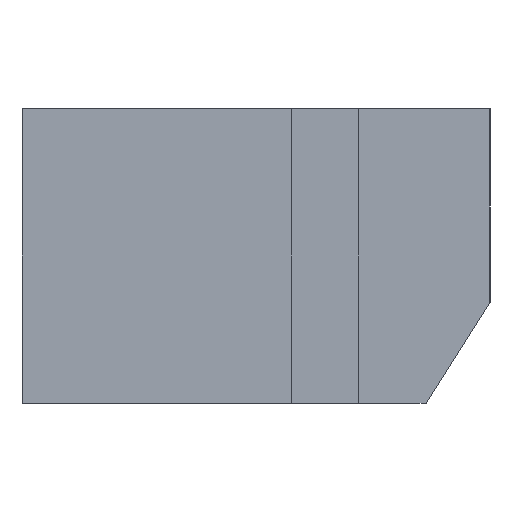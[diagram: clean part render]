
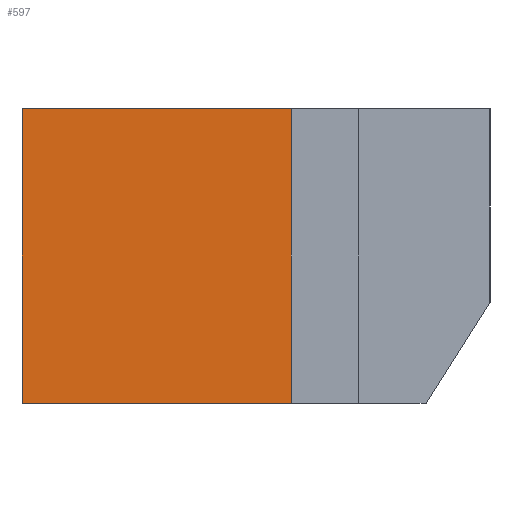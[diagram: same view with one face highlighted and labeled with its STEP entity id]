
A CAD part, left-side view. The second image highlights one B-rep face of the part: STEP entity #597.
In plain terms, the highlighted planar face has unit normal (-1, 0, 0).
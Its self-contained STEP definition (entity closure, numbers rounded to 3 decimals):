
#32 = PLANE('',#33);
#33 = AXIS2_PLACEMENT_3D('',#34,#35,#36);
#34 = CARTESIAN_POINT('',(-13.,3.,2.4));
#35 = DIRECTION('',(0.,0.,-1.));
#36 = DIRECTION('',(0.,-1.,0.));
#393 = VERTEX_POINT('',#394);
#394 = CARTESIAN_POINT('',(-14.4,2.6,2.4));
#408 = PLANE('',#409);
#409 = AXIS2_PLACEMENT_3D('',#410,#411,#412);
#410 = CARTESIAN_POINT('',(-14.4,2.6,2.4));
#411 = DIRECTION('',(0.,1.,0.));
#412 = DIRECTION('',(0.,0.,1.));
#420 = EDGE_CURVE('',#393,#421,#423,.T.);
#421 = VERTEX_POINT('',#422);
#422 = CARTESIAN_POINT('',(-14.4,4.2,2.4));
#423 = SURFACE_CURVE('',#424,(#428,#435),.PCURVE_S1.);
#424 = LINE('',#425,#426);
#425 = CARTESIAN_POINT('',(-14.4,2.6,2.4));
#426 = VECTOR('',#427,1.);
#427 = DIRECTION('',(0.,1.,0.));
#428 = PCURVE('',#32,#429);
#429 = DEFINITIONAL_REPRESENTATION('',(#430),#434);
#430 = LINE('',#431,#432);
#431 = CARTESIAN_POINT('',(0.4,1.4));
#432 = VECTOR('',#433,1.);
#433 = DIRECTION('',(-1.,-0.));
#434 = ( GEOMETRIC_REPRESENTATION_CONTEXT(2) 
PARAMETRIC_REPRESENTATION_CONTEXT() REPRESENTATION_CONTEXT('2D SPACE',''
  ) );
#435 = PCURVE('',#436,#441);
#436 = PLANE('',#437);
#437 = AXIS2_PLACEMENT_3D('',#438,#439,#440);
#438 = CARTESIAN_POINT('',(-14.4,2.6,2.4));
#439 = DIRECTION('',(1.,0.,0.));
#440 = DIRECTION('',(0.,0.,1.));
#441 = DEFINITIONAL_REPRESENTATION('',(#442),#446);
#442 = LINE('',#443,#444);
#443 = CARTESIAN_POINT('',(0.,0.));
#444 = VECTOR('',#445,1.);
#445 = DIRECTION('',(0.,-1.));
#446 = ( GEOMETRIC_REPRESENTATION_CONTEXT(2) 
PARAMETRIC_REPRESENTATION_CONTEXT() REPRESENTATION_CONTEXT('2D SPACE',''
  ) );
#462 = PLANE('',#463);
#463 = AXIS2_PLACEMENT_3D('',#464,#465,#466);
#464 = CARTESIAN_POINT('',(-14.4,4.2,2.4));
#465 = DIRECTION('',(0.,1.,0.));
#466 = DIRECTION('',(0.,0.,1.));
#495 = PLANE('',#496);
#496 = AXIS2_PLACEMENT_3D('',#497,#498,#499);
#497 = CARTESIAN_POINT('',(-13.,1.42,4.15));
#498 = DIRECTION('',(0.,0.,1.));
#499 = DIRECTION('',(0.,1.,0.));
#553 = EDGE_CURVE('',#421,#554,#556,.T.);
#554 = VERTEX_POINT('',#555);
#555 = CARTESIAN_POINT('',(-14.4,4.2,4.15));
#556 = SURFACE_CURVE('',#557,(#561,#568),.PCURVE_S1.);
#557 = LINE('',#558,#559);
#558 = CARTESIAN_POINT('',(-14.4,4.2,2.4));
#559 = VECTOR('',#560,1.);
#560 = DIRECTION('',(0.,0.,1.));
#561 = PCURVE('',#462,#562);
#562 = DEFINITIONAL_REPRESENTATION('',(#563),#567);
#563 = LINE('',#564,#565);
#564 = CARTESIAN_POINT('',(0.,0.));
#565 = VECTOR('',#566,1.);
#566 = DIRECTION('',(1.,0.));
#567 = ( GEOMETRIC_REPRESENTATION_CONTEXT(2) 
PARAMETRIC_REPRESENTATION_CONTEXT() REPRESENTATION_CONTEXT('2D SPACE',''
  ) );
#568 = PCURVE('',#436,#569);
#569 = DEFINITIONAL_REPRESENTATION('',(#570),#574);
#570 = LINE('',#571,#572);
#571 = CARTESIAN_POINT('',(0.,-1.6));
#572 = VECTOR('',#573,1.);
#573 = DIRECTION('',(1.,0.));
#574 = ( GEOMETRIC_REPRESENTATION_CONTEXT(2) 
PARAMETRIC_REPRESENTATION_CONTEXT() REPRESENTATION_CONTEXT('2D SPACE',''
  ) );
#597 = ADVANCED_FACE('',(#598),#436,.F.);
#598 = FACE_BOUND('',#599,.F.);
#599 = EDGE_LOOP('',(#600,#623,#624,#625));
#600 = ORIENTED_EDGE('',*,*,#601,.F.);
#601 = EDGE_CURVE('',#393,#602,#604,.T.);
#602 = VERTEX_POINT('',#603);
#603 = CARTESIAN_POINT('',(-14.4,2.6,4.15));
#604 = SURFACE_CURVE('',#605,(#609,#616),.PCURVE_S1.);
#605 = LINE('',#606,#607);
#606 = CARTESIAN_POINT('',(-14.4,2.6,2.4));
#607 = VECTOR('',#608,1.);
#608 = DIRECTION('',(0.,0.,1.));
#609 = PCURVE('',#436,#610);
#610 = DEFINITIONAL_REPRESENTATION('',(#611),#615);
#611 = LINE('',#612,#613);
#612 = CARTESIAN_POINT('',(0.,0.));
#613 = VECTOR('',#614,1.);
#614 = DIRECTION('',(1.,0.));
#615 = ( GEOMETRIC_REPRESENTATION_CONTEXT(2) 
PARAMETRIC_REPRESENTATION_CONTEXT() REPRESENTATION_CONTEXT('2D SPACE',''
  ) );
#616 = PCURVE('',#408,#617);
#617 = DEFINITIONAL_REPRESENTATION('',(#618),#622);
#618 = LINE('',#619,#620);
#619 = CARTESIAN_POINT('',(0.,0.));
#620 = VECTOR('',#621,1.);
#621 = DIRECTION('',(1.,0.));
#622 = ( GEOMETRIC_REPRESENTATION_CONTEXT(2) 
PARAMETRIC_REPRESENTATION_CONTEXT() REPRESENTATION_CONTEXT('2D SPACE',''
  ) );
#623 = ORIENTED_EDGE('',*,*,#420,.T.);
#624 = ORIENTED_EDGE('',*,*,#553,.T.);
#625 = ORIENTED_EDGE('',*,*,#626,.F.);
#626 = EDGE_CURVE('',#602,#554,#627,.T.);
#627 = SURFACE_CURVE('',#628,(#632,#639),.PCURVE_S1.);
#628 = LINE('',#629,#630);
#629 = CARTESIAN_POINT('',(-14.4,2.6,4.15));
#630 = VECTOR('',#631,1.);
#631 = DIRECTION('',(0.,1.,0.));
#632 = PCURVE('',#436,#633);
#633 = DEFINITIONAL_REPRESENTATION('',(#634),#638);
#634 = LINE('',#635,#636);
#635 = CARTESIAN_POINT('',(1.75,0.));
#636 = VECTOR('',#637,1.);
#637 = DIRECTION('',(0.,-1.));
#638 = ( GEOMETRIC_REPRESENTATION_CONTEXT(2) 
PARAMETRIC_REPRESENTATION_CONTEXT() REPRESENTATION_CONTEXT('2D SPACE',''
  ) );
#639 = PCURVE('',#495,#640);
#640 = DEFINITIONAL_REPRESENTATION('',(#641),#645);
#641 = LINE('',#642,#643);
#642 = CARTESIAN_POINT('',(1.18,1.4));
#643 = VECTOR('',#644,1.);
#644 = DIRECTION('',(1.,0.));
#645 = ( GEOMETRIC_REPRESENTATION_CONTEXT(2) 
PARAMETRIC_REPRESENTATION_CONTEXT() REPRESENTATION_CONTEXT('2D SPACE',''
  ) );
